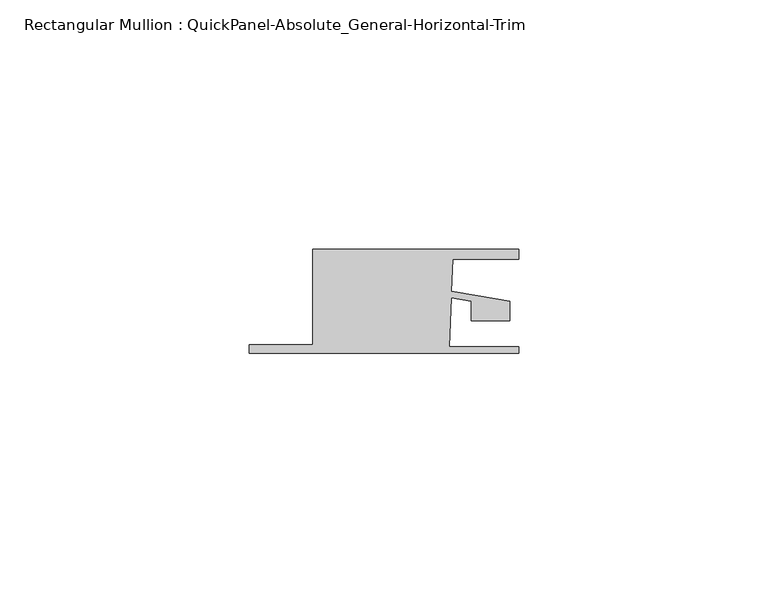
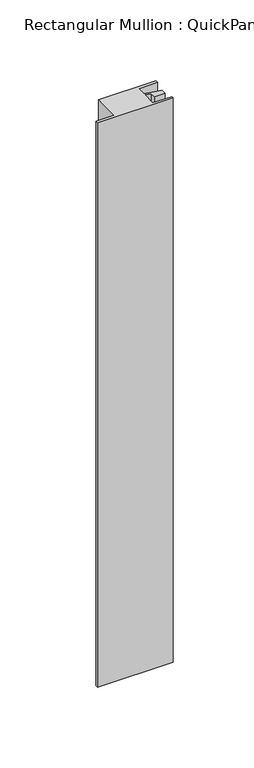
"""IFC4 building model written with IfcOpenShell, lengths in millimetres: member geometry, Rectangular Mullion : QuickPanel-Absolute_General-Horizontal-Trim."""

from ifc_helpers import new_model, si_unit, frame, origin, place, context, project, spatial, polyline, outline, extrude, source, transform, mapped, element, save


def rectangular_mullion_quickpanel_absolute_general_horizontal_1130ff88(model_context):
    return source(origin(), model_context, "Body", "SweptSolid", [
        extrude(outline(polyline([(28.3897075, 8.6293878), (28.3897075, 6.6935423), (15.1487948, 6.6935423), (14.9220096, 0.1992641), (20.1722905, -0.7008023), (26.6076231, -1.8040245), (26.6076231, -5.6493034), (18.86285, -5.6493034), (18.86285, -1.7648465), (14.8772811, -1.0815922), (14.533354, -10.9303752), (28.3897075, -10.9303752), (28.3897075, -12.1803727), (-25.5852925, -12.1803727), (-25.5852925, -10.4985348), (-12.9047811, -10.4985348), (-12.9047811, 8.6293878), (28.3897075, 8.6293878)])), frame((0.0, 0.0, -426.3689016), z_axis=(0.0, 0.0, 1.0), x_axis=(1.0, 0.0, 0.0)), (0.0, 0.0, 1.0), 426.3689016),
    ])


if __name__ == "__main__":
    model = new_model("IFC4")
    model_context = context("Model", 3, world=origin())
    ifc_project = project(units=[si_unit("LENGTHUNIT", "METRE", prefix="MILLI")], contexts=[model_context])
    site = spatial("IfcSite", under=ifc_project)
    building = spatial("IfcBuilding", under=site)
    placement = place(None, origin())
    rectangular_mullion_quickpanel_absolute_general_horizontal_shape = rectangular_mullion_quickpanel_absolute_general_horizontal_1130ff88(model_context)
    element("IfcMember", 1, ObjectType="Rectangular Mullion : QuickPanel-Absolute_General-Horizontal-Trim", at=placement, inside=building, context=model_context, shape_type="MappedRepresentation", body=[
        mapped(rectangular_mullion_quickpanel_absolute_general_horizontal_shape, transform((0.0, 0.0, 0.0), x_axis=(1.0, 0.0, 0.0), y_axis=(0.0, 1.0, 0.0), z_axis=(0.0, 0.0, 1.0))),
    ])
    save(model, "model.ifc")
